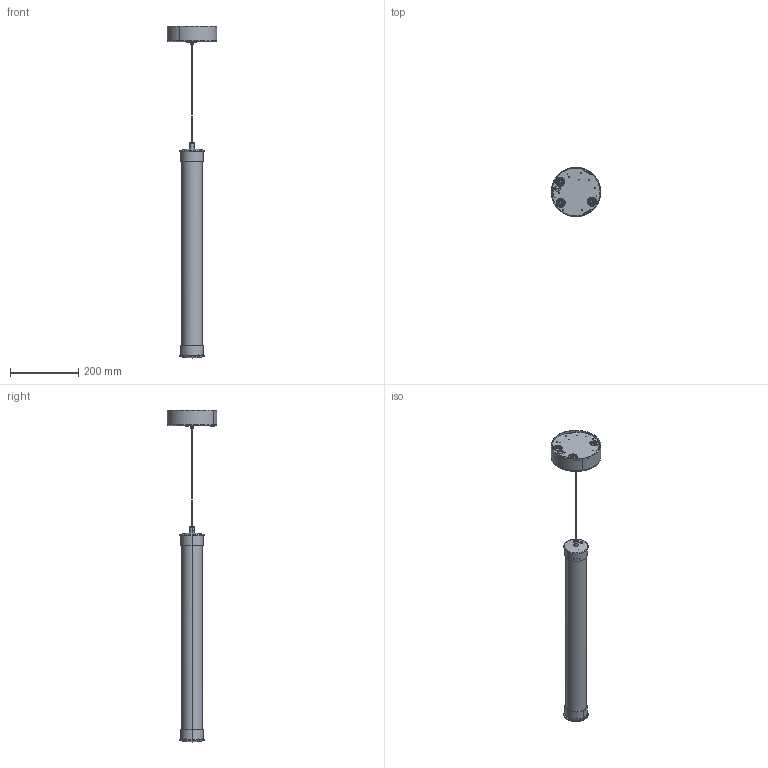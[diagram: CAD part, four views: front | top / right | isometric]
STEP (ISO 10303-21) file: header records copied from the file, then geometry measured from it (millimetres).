
FILE_DESCRIPTION(/* description */ (''),/* implementation_level */ '2;1');
FILE_NAME(/* name */ '00343MP2LD10CEPB - STACKING S 60 V NAKED EMEA',/* time_stamp */ '2023-09-27T17:17:57+02:00',/* author */ (''),/* organization */ (''),/* preprocessor_version */ 'ST-DEVELOPER v16.5',/* originating_system */ 'Rhino 7.27',/* authorisation */ '');
FILE_SCHEMA (('CONFIG_CONTROL_DESIGN'));
Length unit declared in the file: millimetre
Products named in the file (1): Document
Bounding box: 144.93 x 144.79 x 972.06 mm (x, y, z)
Volume: 550892 mm3; surface area: 476436.8 mm2
Topology: 18 solids, 18 shells, 625 faces, 1551 edges, 1011 vertices
Faces by surface type: plane 270, cylinder 235, bspline 120
Entity records: 19635 total; most frequent: CARTESIAN_POINT 9274, ORIENTED_EDGE 3082, EDGE_CURVE 1541, VERTEX_POINT 1011, EDGE_LOOP 780, B_SPLINE_CURVE_WITH_KNOTS 738, ADVANCED_FACE 625, FACE_OUTER_BOUND 625
